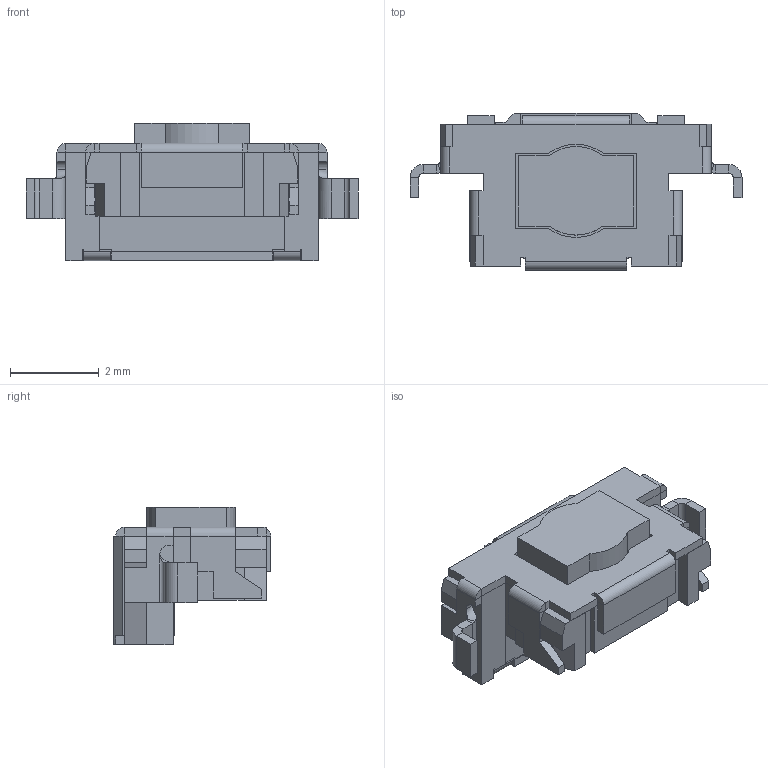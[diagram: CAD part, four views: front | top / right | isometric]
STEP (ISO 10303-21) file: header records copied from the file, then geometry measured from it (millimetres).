
FILE_DESCRIPTION((''),'2;1');
FILE_NAME('JQD3561QL-B0313-01AEG-1-105_ASM','2026-05-21T18:24:47',('Admin'),(''),'CREO PARAMETRIC BY PTC INC, 2019224','CREO PARAMETRIC BY PTC INC, 2019224','');
FILE_SCHEMA(('AUTOMOTIVE_DESIGN { 1 0 10303 214 1 1 1 1 }'));
Length unit declared in the file: millimetre
Products named in the file (3): JQD3561QL-B0313-01AEG-1-105_01; JQD3561QL-B0313-01AEG-1-105_04; JQD3561QL-B0313-01AEG-1-105_ASM
Assembly tree (2 placements, depth 2):
  JQD3561QL-B0313-01AEG-1-105_ASM
    JQD3561QL-B0313-01AEG-1-105_01
    JQD3561QL-B0313-01AEG-1-105_04
Bounding box: 7.5 x 3.55 x 3.1 mm (x, y, z)
Volume: 36.4 mm3; surface area: 137.2 mm2
Topology: 2 solids, 2 shells, 225 faces, 578 edges, 358 vertices
Faces by surface type: plane 201, cylinder 22, bspline 2
Entity records: 8018 total; most frequent: CARTESIAN_POINT 1368, ORIENTED_EDGE 1156, DIRECTION 1078, EDGE_CURVE 578, VECTOR 530, LINE 530, VERTEX_POINT 358, PRESENTATION_STYLE_ASSIGNMENT 281
